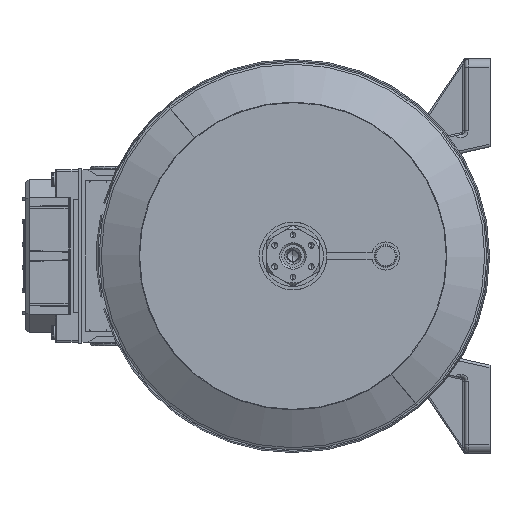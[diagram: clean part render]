
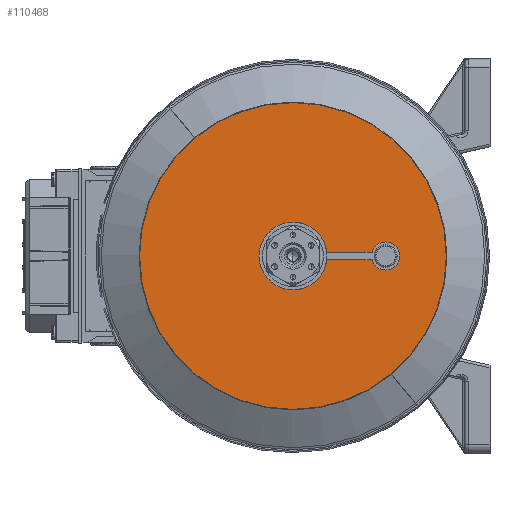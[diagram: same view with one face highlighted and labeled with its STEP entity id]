
A CAD part, left-side view. The second image highlights one B-rep face of the part: STEP entity #110468.
In plain terms, the highlighted planar face has unit normal (-1, 0, 0) as drawn and (0, -1, 0) by its records, which use the part's own axes.
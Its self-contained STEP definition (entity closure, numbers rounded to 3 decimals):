
#2167 = CIRCLE ( 'NONE', #22044, 87.5 ) ;
#3339 = DIRECTION ( 'NONE',  ( 0., 0., 1. ) ) ;
#3696 = VERTEX_POINT ( 'NONE', #137953 ) ;
#4413 = CARTESIAN_POINT ( 'NONE',  ( 0., 0., 0. ) ) ;
#12498 = AXIS2_PLACEMENT_3D ( 'NONE', #4413, #79781, #15268 ) ;
#15268 = DIRECTION ( 'NONE',  ( 0., 0., 1. ) ) ;
#17395 = PLANE ( 'NONE',  #124613 ) ;
#22044 = AXIS2_PLACEMENT_3D ( 'NONE', #46783, #122112, #57562 ) ;
#28234 = DIRECTION ( 'NONE',  ( 0., 0., -1. ) ) ;
#29556 = DIRECTION ( 'NONE',  ( 0., 1., 0. ) ) ;
#33063 = EDGE_CURVE ( 'NONE', #125623, #3696, #2167, .T. ) ;
#37046 = EDGE_CURVE ( 'NONE', #117859, #70248, #69556, .T. ) ;
#37400 = EDGE_CURVE ( 'NONE', #3696, #125623, #74590, .T. ) ;
#46783 = CARTESIAN_POINT ( 'NONE',  ( 0., 0., 0. ) ) ;
#57562 = DIRECTION ( 'NONE',  ( 0., 0., 1. ) ) ;
#59599 = ORIENTED_EDGE ( 'NONE', *, *, #37400, .F. ) ;
#60265 = CARTESIAN_POINT ( 'NONE',  ( -87.5, 0., 0. ) ) ;
#67860 = DIRECTION ( 'NONE',  ( 0., 1., 0. ) ) ;
#67972 = EDGE_LOOP ( 'NONE', ( #138879, #116116 ) ) ;
#69556 = CIRCLE ( 'NONE', #126248, 13.5 ) ;
#70248 = VERTEX_POINT ( 'NONE', #136596 ) ;
#71989 = FACE_OUTER_BOUND ( 'NONE', #75037, .T. ) ;
#74590 = CIRCLE ( 'NONE', #12498, 87.5 ) ;
#75037 = EDGE_LOOP ( 'NONE', ( #116712, #59599 ) ) ;
#75410 = CARTESIAN_POINT ( 'NONE',  ( 0., 0., -13.5 ) ) ;
#79781 = DIRECTION ( 'NONE',  ( 0., 1., 0. ) ) ;
#82153 = FACE_BOUND ( 'NONE', #67972, .T. ) ;
#84586 = EDGE_CURVE ( 'NONE', #70248, #117859, #99505, .T. ) ;
#92783 = DIRECTION ( 'NONE',  ( 0., -1., 0. ) ) ;
#94084 = CARTESIAN_POINT ( 'NONE',  ( 0., 0., 0. ) ) ;
#97231 = CARTESIAN_POINT ( 'NONE',  ( 0., 0., 87.5 ) ) ;
#99505 = CIRCLE ( 'NONE', #129378, 13.5 ) ;
#104906 = DIRECTION ( 'NONE',  ( 0., 0., 1. ) ) ;
#110468 = ADVANCED_FACE ( 'NONE', ( #82153, #71989 ), #17395, .T. ) ;
#116116 = ORIENTED_EDGE ( 'NONE', *, *, #37046, .T. ) ;
#116712 = ORIENTED_EDGE ( 'NONE', *, *, #33063, .F. ) ;
#117859 = VERTEX_POINT ( 'NONE', #75410 ) ;
#122112 = DIRECTION ( 'NONE',  ( 0., 1., 0. ) ) ;
#124613 = AXIS2_PLACEMENT_3D ( 'NONE', #60265, #92783, #28234 ) ;
#125623 = VERTEX_POINT ( 'NONE', #97231 ) ;
#126248 = AXIS2_PLACEMENT_3D ( 'NONE', #94084, #29556, #104906 ) ;
#129378 = AXIS2_PLACEMENT_3D ( 'NONE', #132439, #67860, #3339 ) ;
#132439 = CARTESIAN_POINT ( 'NONE',  ( 0., 0., 0. ) ) ;
#136596 = CARTESIAN_POINT ( 'NONE',  ( 0., 0., 13.5 ) ) ;
#137953 = CARTESIAN_POINT ( 'NONE',  ( 0., 0., -87.5 ) ) ;
#138879 = ORIENTED_EDGE ( 'NONE', *, *, #84586, .T. ) ;
